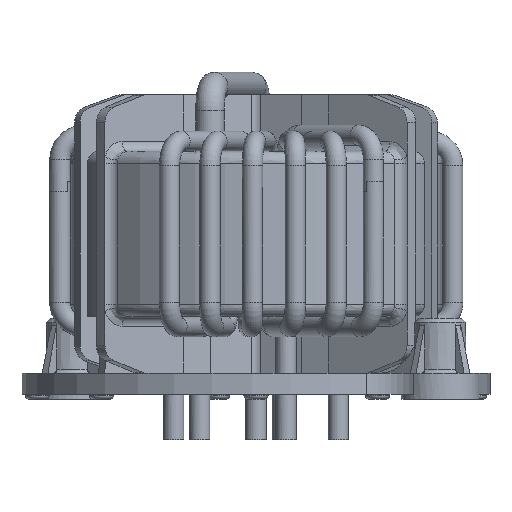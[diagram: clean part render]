
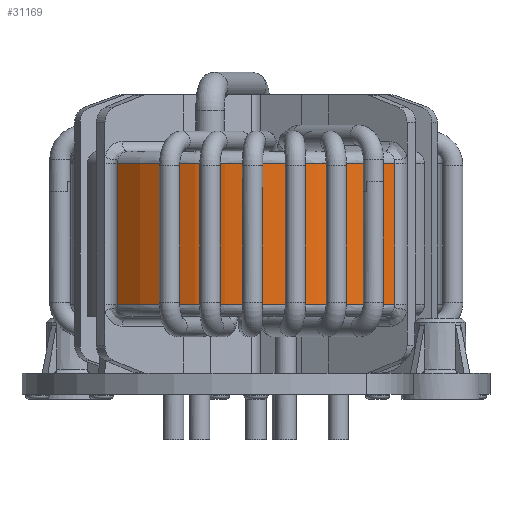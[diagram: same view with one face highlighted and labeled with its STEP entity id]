
A CAD part, left-side view. The second image highlights one B-rep face of the part: STEP entity #31169.
In plain terms, the highlighted cylindrical face has radius 23 mm (diameter 46 mm), a partial arc.
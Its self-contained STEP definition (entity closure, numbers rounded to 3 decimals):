
#7694=CARTESIAN_POINT('',(-15.335,-17.142,1.5));
#7695=VERTEX_POINT('',#7694);
#7703=CARTESIAN_POINT('',(-15.335,17.142,1.5));
#7704=VERTEX_POINT('',#7703);
#7705=CARTESIAN_POINT('',(0.,0.,1.5));
#7706=DIRECTION('',(0.0,0.0,-1.0));
#7707=DIRECTION('',(-1.0,0.0,0.0));
#7708=AXIS2_PLACEMENT_3D('',#7705,#7706,#7707);
#7709=CIRCLE('',#7708,23.);
#7710=EDGE_CURVE('',#7695,#7704,#7709,.T.);
#29062=CARTESIAN_POINT('',(-15.335,-17.142,18.9));
#29063=VERTEX_POINT('',#29062);
#29141=CARTESIAN_POINT('',(-15.335,-17.142,18.9));
#29142=DIRECTION('',(0.0,0.0,-1.0));
#29143=VECTOR('',#29142,17.4);
#29144=LINE('',#29141,#29143);
#29145=EDGE_CURVE('',#29063,#7695,#29144,.T.);
#31110=CARTESIAN_POINT('',(-15.335,17.142,18.9));
#31111=VERTEX_POINT('',#31110);
#31142=CARTESIAN_POINT('',(-15.335,17.142,1.5));
#31143=DIRECTION('',(0.0,0.0,1.0));
#31144=VECTOR('',#31143,17.4);
#31145=LINE('',#31142,#31144);
#31146=EDGE_CURVE('',#7704,#31111,#31145,.T.);
#31152=CARTESIAN_POINT('',(0.,0.,10.2));
#31153=DIRECTION('',(0.,0.,1.0));
#31154=DIRECTION('',(-0.5,0.866,0.));
#31155=AXIS2_PLACEMENT_3D('',#31152,#31153,#31154);
#31156=CYLINDRICAL_SURFACE('',#31155,23.);
#31157=ORIENTED_EDGE('',*,*,#29145,.F.);
#31158=CARTESIAN_POINT('',(0.,0.,18.9));
#31159=DIRECTION('',(0.0,0.0,1.0));
#31160=DIRECTION('',(-1.0,0.0,0.0));
#31161=AXIS2_PLACEMENT_3D('',#31158,#31159,#31160);
#31162=CIRCLE('',#31161,23.);
#31163=EDGE_CURVE('',#31111,#29063,#31162,.T.);
#31164=ORIENTED_EDGE('',*,*,#31163,.F.);
#31165=ORIENTED_EDGE('',*,*,#31146,.F.);
#31166=ORIENTED_EDGE('',*,*,#7710,.F.);
#31167=EDGE_LOOP('',(#31157,#31164,#31165,#31166));
#31168=FACE_OUTER_BOUND('',#31167,.T.);
#31169=ADVANCED_FACE('',(#31168),#31156,.T.);
